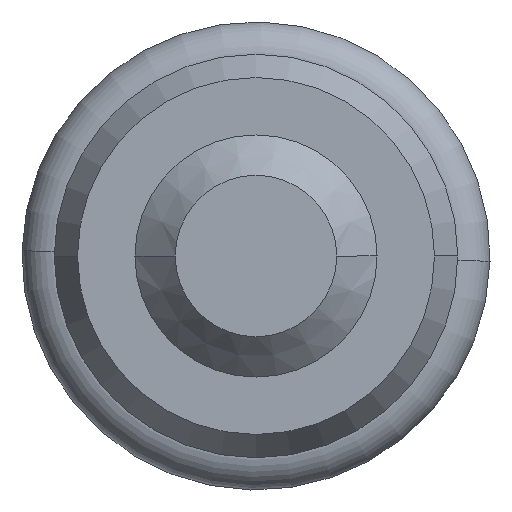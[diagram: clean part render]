
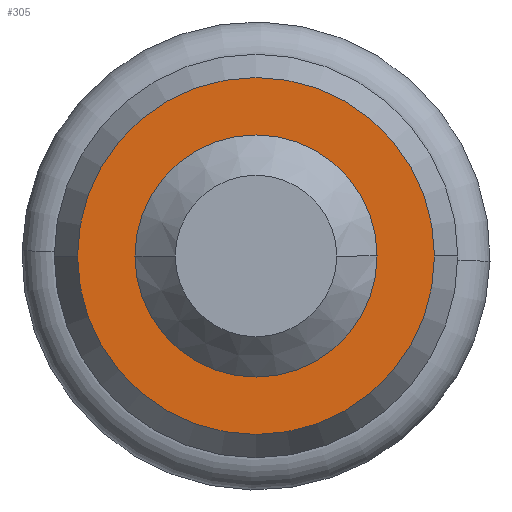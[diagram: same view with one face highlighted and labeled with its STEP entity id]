
A CAD part, front view. The second image highlights one B-rep face of the part: STEP entity #305.
In plain terms, the highlighted planar face has unit normal (0, -1, 0).
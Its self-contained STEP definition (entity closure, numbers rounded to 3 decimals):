
#21 = CARTESIAN_POINT ( 'NONE',  ( -4.423, -28., 0. ) ) ;
#93 = AXIS2_PLACEMENT_3D ( 'NONE', #349, #101, #1060 ) ;
#95 = CARTESIAN_POINT ( 'NONE',  ( 0., -28., 0. ) ) ;
#101 = DIRECTION ( 'NONE',  ( 0., 1., 0. ) ) ;
#183 = PLANE ( 'NONE',  #93 ) ;
#204 = CARTESIAN_POINT ( 'NONE',  ( 0., -28., 0. ) ) ;
#226 = CARTESIAN_POINT ( 'NONE',  ( 0., -28., 0. ) ) ;
#305 = ADVANCED_FACE ( 'Faccia1', ( #402, #749 ), #183, .F. ) ;
#349 = CARTESIAN_POINT ( 'NONE',  ( 3., -28., 0. ) ) ;
#350 = AXIS2_PLACEMENT_3D ( 'NONE', #95, #683, #852 ) ;
#356 = VERTEX_POINT ( 'NONE', #797 ) ;
#394 = CIRCLE ( 'NONE', #846, 4.423 ) ;
#402 = FACE_OUTER_BOUND ( 'NONE', #750, .T. ) ;
#407 = ORIENTED_EDGE ( 'NONE', *, *, #509, .T. ) ;
#416 = EDGE_CURVE ( 'NONE', #356, #949, #525, .T. ) ;
#424 = DIRECTION ( 'NONE',  ( -1., 0., 0. ) ) ;
#438 = CARTESIAN_POINT ( 'NONE',  ( 0., -28., 0. ) ) ;
#509 = EDGE_CURVE ( 'NONE', #834, #961, #394, .T. ) ;
#511 = CARTESIAN_POINT ( 'NONE',  ( 4.423, -28., 0. ) ) ;
#525 = CIRCLE ( 'NONE', #744, 3. ) ;
#566 = CIRCLE ( 'NONE', #350, 3. ) ;
#579 = EDGE_LOOP ( 'NONE', ( #962, #1029 ) ) ;
#603 = DIRECTION ( 'NONE',  ( 0., -1., 0. ) ) ;
#639 = DIRECTION ( 'NONE',  ( 0., -1., 0. ) ) ;
#683 = DIRECTION ( 'NONE',  ( 0., 1., 0. ) ) ;
#714 = DIRECTION ( 'NONE',  ( 0., 1., 0. ) ) ;
#744 = AXIS2_PLACEMENT_3D ( 'NONE', #204, #714, #793 ) ;
#749 = FACE_BOUND ( 'NONE', #579, .T. ) ;
#750 = EDGE_LOOP ( 'NONE', ( #996, #407 ) ) ;
#761 = CARTESIAN_POINT ( 'NONE',  ( 3., -28., 0. ) ) ;
#789 = CIRCLE ( 'NONE', #792, 4.423 ) ;
#792 = AXIS2_PLACEMENT_3D ( 'NONE', #438, #603, #424 ) ;
#793 = DIRECTION ( 'NONE',  ( -1., 0., 0. ) ) ;
#797 = CARTESIAN_POINT ( 'NONE',  ( -3., -28., 0. ) ) ;
#812 = EDGE_CURVE ( 'NONE', #961, #834, #789, .T. ) ;
#823 = EDGE_CURVE ( 'NONE', #949, #356, #566, .T. ) ;
#834 = VERTEX_POINT ( 'NONE', #511 ) ;
#846 = AXIS2_PLACEMENT_3D ( 'NONE', #226, #639, #902 ) ;
#852 = DIRECTION ( 'NONE',  ( -1., 0., 0. ) ) ;
#902 = DIRECTION ( 'NONE',  ( -1., 0., 0. ) ) ;
#949 = VERTEX_POINT ( 'NONE', #761 ) ;
#961 = VERTEX_POINT ( 'NONE', #21 ) ;
#962 = ORIENTED_EDGE ( 'NONE', *, *, #416, .T. ) ;
#996 = ORIENTED_EDGE ( 'NONE', *, *, #812, .T. ) ;
#1029 = ORIENTED_EDGE ( 'NONE', *, *, #823, .T. ) ;
#1060 = DIRECTION ( 'NONE',  ( -1., 0., 0. ) ) ;
